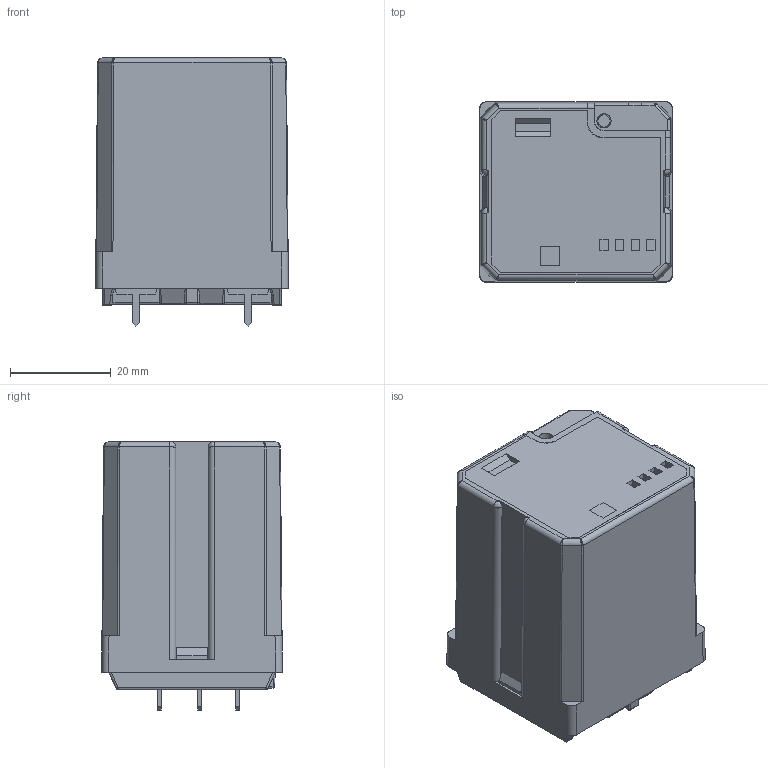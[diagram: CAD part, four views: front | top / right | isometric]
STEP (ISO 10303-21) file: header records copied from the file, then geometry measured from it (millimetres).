
FILE_DESCRIPTION(('STEP AP214'),'2;1');
FILE_NAME('6222-0300.stp','2011-09-07T17:17:38',(''),(''),'2007.1.106','THINKDESIGN','');
FILE_SCHEMA(('AUTOMOTIVE_DESIGN'));
Length unit declared in the file: millimetre
Products named in the file (1): None
Bounding box: 38.2 x 35.8 x 53.11 mm (x, y, z)
Surface area: 11017.2 mm2 (no closed solid volume)
Topology: 0 solids, 0 shells, 428 faces, 2365 edges, 2336 vertices
Faces by surface type: plane 258, cylinder 108, bspline 62
Full cylindrical faces by diameter (mm): 5 x1
Entity records: 26803 total; most frequent: CARTESIAN_POINT 10022, DIRECTION 2789, COMPOSITE_CURVE_SEGMENT 2341, TRIMMED_CURVE 1931, VECTOR 1809, LINE 1809, AXIS2_PLACEMENT_3D 490, OUTER_BOUNDARY_CURVE 428
